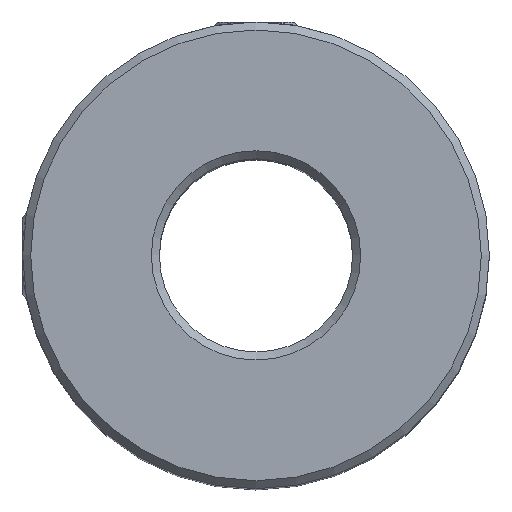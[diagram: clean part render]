
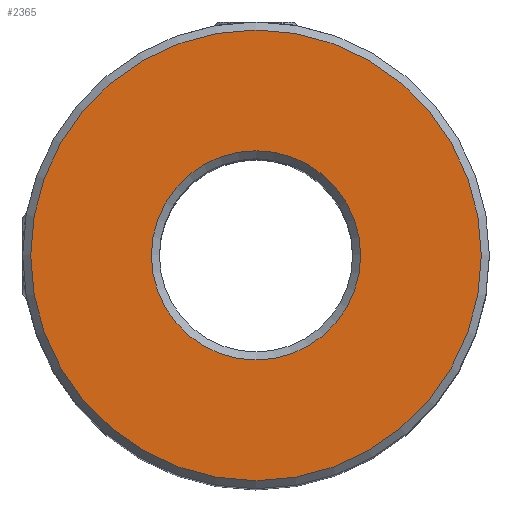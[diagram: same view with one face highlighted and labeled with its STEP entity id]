
A CAD part, top view. The second image highlights one B-rep face of the part: STEP entity #2365.
In plain terms, the highlighted planar face has unit normal (0, 0, 1).
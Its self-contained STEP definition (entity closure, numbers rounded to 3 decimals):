
#661 = CARTESIAN_POINT ( 'NONE',  ( 14., 0., 22.5 ) ) ;
#1159 = EDGE_CURVE ( 'NONE', #7456, #7456, #6513, .T. ) ;
#1279 = AXIS2_PLACEMENT_3D ( 'NONE', #4119, #4707, #1479 ) ;
#1479 = DIRECTION ( 'NONE',  ( 1., 0., 0. ) ) ;
#1706 = CARTESIAN_POINT ( 'NONE',  ( 6.5, 0., 22.5 ) ) ;
#1908 = CARTESIAN_POINT ( 'NONE',  ( 0., 0., 22.5 ) ) ;
#2365 = ADVANCED_FACE ( 'NONE', ( #7849, #3916 ), #2660, .T. ) ;
#2660 = PLANE ( 'NONE',  #1279 ) ;
#3760 = EDGE_LOOP ( 'NONE', ( #4753 ) ) ;
#3916 = FACE_OUTER_BOUND ( 'NONE', #5703, .T. ) ;
#4119 = CARTESIAN_POINT ( 'NONE',  ( 0., 0., 22.5 ) ) ;
#4384 = VERTEX_POINT ( 'NONE', #661 ) ;
#4419 = DIRECTION ( 'NONE',  ( 1., 0., 0. ) ) ;
#4500 = DIRECTION ( 'NONE',  ( 0., 0., -1. ) ) ;
#4542 = EDGE_CURVE ( 'NONE', #4384, #4384, #7372, .T. ) ;
#4586 = ORIENTED_EDGE ( 'NONE', *, *, #4542, .T. ) ;
#4707 = DIRECTION ( 'NONE',  ( 0., 0., 1. ) ) ;
#4749 = AXIS2_PLACEMENT_3D ( 'NONE', #1908, #4500, #6446 ) ;
#4753 = ORIENTED_EDGE ( 'NONE', *, *, #1159, .T. ) ;
#4982 = DIRECTION ( 'NONE',  ( 0., 0., 1. ) ) ;
#5703 = EDGE_LOOP ( 'NONE', ( #4586 ) ) ;
#6446 = DIRECTION ( 'NONE',  ( 1., 0., 0. ) ) ;
#6513 = CIRCLE ( 'NONE', #4749, 6.5 ) ;
#6840 = CARTESIAN_POINT ( 'NONE',  ( 0., 0., 22.5 ) ) ;
#7108 = AXIS2_PLACEMENT_3D ( 'NONE', #6840, #4982, #4419 ) ;
#7372 = CIRCLE ( 'NONE', #7108, 14. ) ;
#7456 = VERTEX_POINT ( 'NONE', #1706 ) ;
#7849 = FACE_BOUND ( 'NONE', #3760, .T. ) ;
